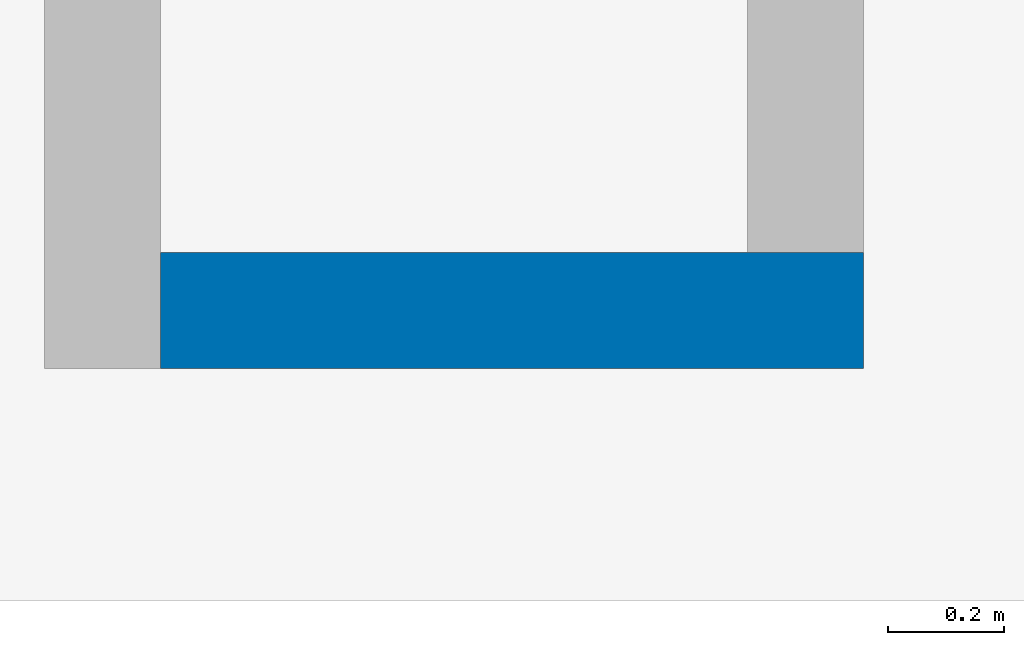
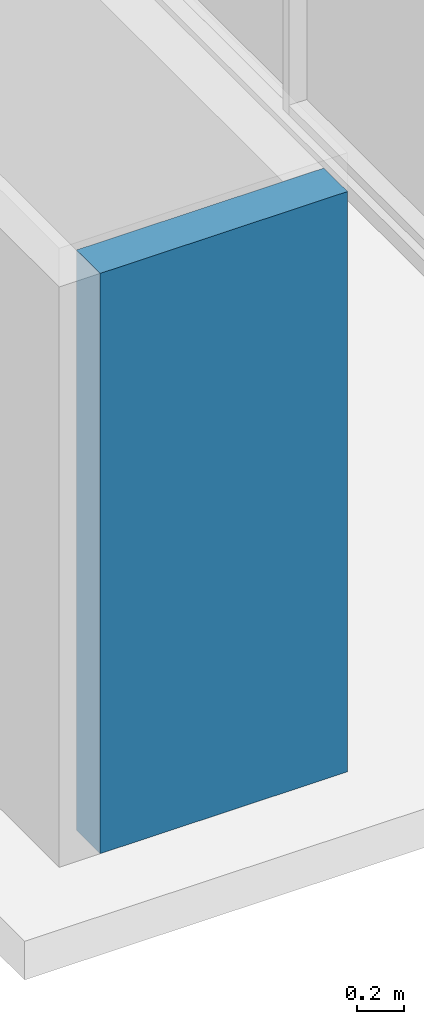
# One storey, part 30 of 100: 1 wall.
"""IFC2X3 building model written with IfcOpenShell, lengths in millimetres."""

from ifc_helpers import new_model, entity, si_unit, converted_unit, derived_unit, direction, frame, frame_2d, origin, place, context, subcontext, project, spatial, rectangle, extrude, material, layer, layer_set, layer_usage, type_object, element, save


model = new_model("IFC2X3")

# Units and contexts
model_context = context("Model", 3, precision=0.01, world=origin(), true_north=direction((6.123031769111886e-17, 1.0)))
body_context = subcontext(model_context, "Body", "Model", "MODEL_VIEW")
ifc_project = project(units=[si_unit("LENGTHUNIT", "METRE", prefix="MILLI"), si_unit("AREAUNIT", "SQUARE_METRE"), si_unit("VOLUMEUNIT", "CUBIC_METRE"), converted_unit("PLANEANGLEUNIT", "DEGREE", entity("IfcRatioMeasure", 0.017453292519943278), si_unit("PLANEANGLEUNIT", "RADIAN"), dimensions=[0, 0, 0, 0, 0, 0, 0]), si_unit("MASSUNIT", "GRAM", prefix="KILO"), derived_unit("MASSDENSITYUNIT", [(si_unit("MASSUNIT", "GRAM", prefix="KILO"), 1), (si_unit("LENGTHUNIT", "METRE"), -3)]), derived_unit("MOMENTOFINERTIAUNIT", [(si_unit("LENGTHUNIT", "METRE"), 4)]), si_unit("TIMEUNIT", "SECOND"), si_unit("FREQUENCYUNIT", "HERTZ"), si_unit("THERMODYNAMICTEMPERATUREUNIT", "DEGREE_CELSIUS"), derived_unit("THERMALTRANSMITTANCEUNIT", [(si_unit("MASSUNIT", "GRAM", prefix="KILO"), 1), (si_unit("THERMODYNAMICTEMPERATUREUNIT", "KELVIN"), -1), (si_unit("TIMEUNIT", "SECOND"), -3)]), derived_unit("VOLUMETRICFLOWRATEUNIT", [(si_unit("LENGTHUNIT", "METRE"), 3), (si_unit("TIMEUNIT", "SECOND"), -1)]), derived_unit("MASSFLOWRATEUNIT", [(si_unit("MASSUNIT", "GRAM", prefix="KILO"), 1), (si_unit("TIMEUNIT", "SECOND"), -1)]), derived_unit("ROTATIONALFREQUENCYUNIT", [(si_unit("TIMEUNIT", "SECOND"), -1)]), si_unit("ELECTRICCURRENTUNIT", "AMPERE"), si_unit("ELECTRICVOLTAGEUNIT", "VOLT"), si_unit("POWERUNIT", "WATT"), si_unit("FORCEUNIT", "NEWTON", prefix="KILO"), si_unit("ILLUMINANCEUNIT", "LUX"), si_unit("LUMINOUSFLUXUNIT", "LUMEN"), si_unit("LUMINOUSINTENSITYUNIT", "CANDELA"), derived_unit("USERDEFINED", [(si_unit("MASSUNIT", "GRAM", prefix="KILO"), -1), (si_unit("LENGTHUNIT", "METRE"), -2), (si_unit("TIMEUNIT", "SECOND"), 3), (si_unit("LUMINOUSFLUXUNIT", "LUMEN"), 1)]), derived_unit("SOUNDPOWERUNIT", [(si_unit("MASSUNIT", "GRAM", prefix="KILO"), 1), (si_unit("LENGTHUNIT", "METRE"), 2), (si_unit("TIMEUNIT", "SECOND"), -3)]), derived_unit("SOUNDPRESSUREUNIT", [(si_unit("MASSUNIT", "GRAM", prefix="KILO"), 1), (si_unit("LENGTHUNIT", "METRE"), -1), (si_unit("TIMEUNIT", "SECOND"), -2)]), derived_unit("LINEARVELOCITYUNIT", [(si_unit("LENGTHUNIT", "METRE"), 1), (si_unit("TIMEUNIT", "SECOND"), -1)]), si_unit("PRESSUREUNIT", "PASCAL"), derived_unit("USERDEFINED", [(si_unit("LENGTHUNIT", "METRE"), -2), (si_unit("MASSUNIT", "GRAM", prefix="KILO"), 1), (si_unit("TIMEUNIT", "SECOND"), -2)]), derived_unit("LINEARFORCEUNIT", [(si_unit("MASSUNIT", "GRAM", prefix="KILO"), 1), (si_unit("LENGTHUNIT", "METRE"), 1), (si_unit("TIMEUNIT", "SECOND"), -2), (si_unit("LENGTHUNIT", "METRE"), -1)]), derived_unit("PLANARFORCEUNIT", [(si_unit("MASSUNIT", "GRAM", prefix="KILO"), 1), (si_unit("LENGTHUNIT", "METRE"), 1), (si_unit("TIMEUNIT", "SECOND"), -2), (si_unit("LENGTHUNIT", "METRE"), -2)])], contexts=[model_context])

# Site, building, storey
site_placement = place(None, frame((-14167.972527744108, -657.2125860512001, 0.0)))
site = spatial("IfcSite", under=ifc_project, at=site_placement, Name="Default", CompositionType="ELEMENT")
building_placement = place(site_placement, origin())
building = spatial("IfcBuilding", under=site, at=building_placement, Name="Sample Building", CompositionType="ELEMENT")
storey_placement = place(building_placement, origin())
storey = spatial("IfcBuildingStorey", under=building, at=storey_placement, Name="지상 1층", CompositionType="ELEMENT", Elevation=0.0)

# Wall
ifc_material = material(Name="KBIMS-콘크리트")
ifc_layer = layer(ifc_material, 200.0)
ifc_layer_set = layer_set([ifc_layer], Name="기본 벽:WA111-철근콘크리트구조 벽 200mm_CW1")
ifc_layer_usage = layer_usage(ifc_layer_set, "AXIS2", "NEGATIVE", 100.0)
wall_type = type_object("IfcWallType", Name="기본 벽:WA111-철근콘크리트구조 벽 200mm_CW1", PredefinedType="STANDARD", material=ifc_layer_set)
wall_placement = place(storey_placement, frame((11877.972417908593, -442.78773509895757, 0.0), z_axis=(0.0, 0.0, 1.0), x_axis=(-1.0, 0.0, 0.0)))
element("IfcWallStandardCase", 1, at=wall_placement, inside=storey, type_object=wall_type, material=ifc_layer_usage, Name="기본 벽:WA111-철근콘크리트구조 벽 200mm_CW1", ObjectType="기본 벽:WA111-철근콘크리트구조 벽 200mm_CW1", context=body_context, shape_type="SweptSolid", body=[
    extrude(rectangle(XDim=1209.9999999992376, YDim=200.0, at=frame_2d((604.9999999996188, 0.0), x_axis=(-1.0, 0.0))), origin(), (0.0, 0.0, 1.0), 2999.999999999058),
])

save(model, "model.ifc")
